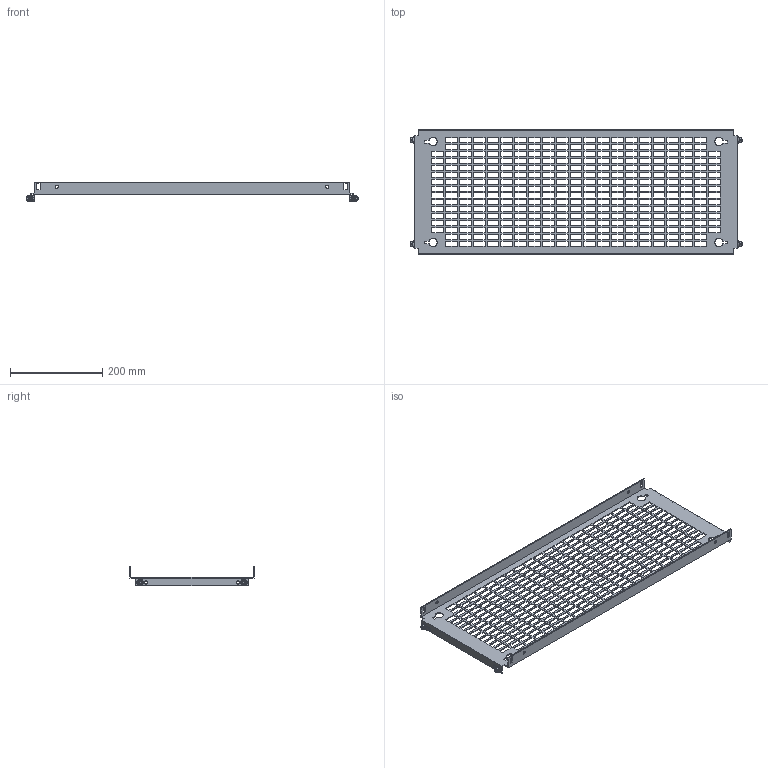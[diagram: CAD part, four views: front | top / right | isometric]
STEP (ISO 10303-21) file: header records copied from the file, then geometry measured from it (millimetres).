
FILE_DESCRIPTION(('Open CASCADE Model'),'2;1');
FILE_NAME('Open CASCADE Shape Model','2025-02-19T16:48:45',('Author'),( 'Open CASCADE'),'Open CASCADE STEP processor 7.8','Open CASCADE 7.8' ,'Unknown');
FILE_SCHEMA(('AUTOMOTIVE_DESIGN { 1 0 10303 214 1 1 1 1 }'));
Length unit declared in the file: millimetre
Products named in the file (4): Compound1; Solid1; Solid2; Solid3
Assembly tree (9 placements, depth 2):
  Compound1
    Solid1
    Solid2  x4
    Solid3  x4
Bounding box: 720 x 269 x 43 mm (x, y, z)
Volume: 272238.2 mm3; surface area: 325625.8 mm2
Topology: 9 solids, 9 shells, 1602 faces, 4634 edges, 3054 vertices
Faces by surface type: plane 1446, cone 68, bspline 48, cylinder 28, torus 12
Full cylindrical faces by diameter (mm): 5 x4, 6 x8, 7 x12
Entity records: 49312 total; most frequent: CARTESIAN_POINT 9199, ORIENTED_EDGE 8590, DIRECTION 7168, EDGE_CURVE 4295, LINE 4144, VECTOR 4144, VERTEX_POINT 2856, FACE_BOUND 2145
